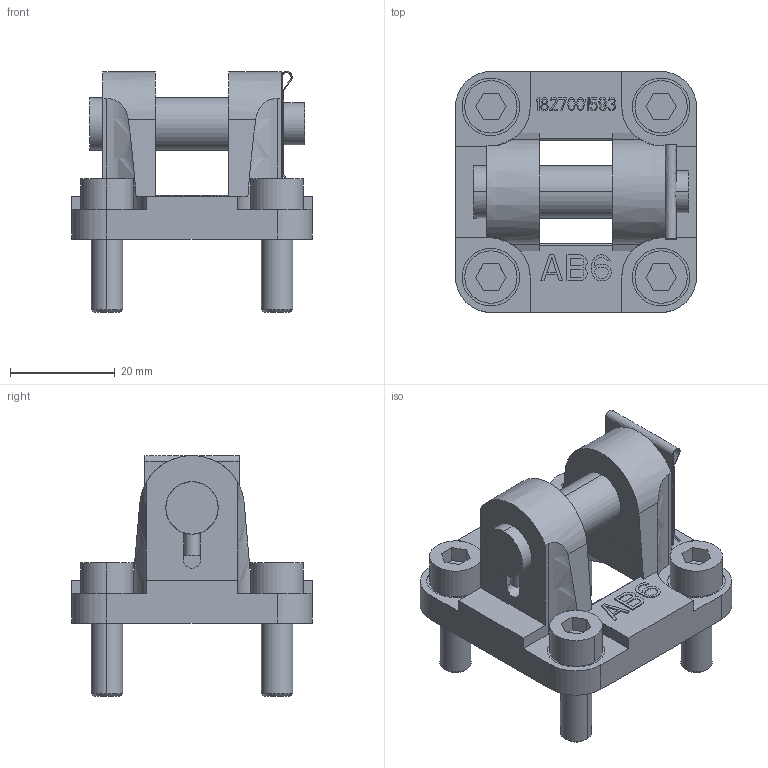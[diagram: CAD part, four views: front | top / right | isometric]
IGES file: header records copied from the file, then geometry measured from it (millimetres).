
Start section:  PTC IGES file: 1827001593\1827001593.iges
Global section: file name: 1827001593\1827001593.iges; native system: Creo Parametric by PTC Inc.; preprocessor: 2020044; author: THD3HC; organization: Unknown; date: 20231107.150156; units: millimetre
Bounding box: 46 x 46 x 46 mm (x, y, z)
Surface area: 11803.3 mm2 (no closed solid volume)
Topology: 0 solids, 0 shells, 656 faces, 3640 edges, 3640 vertices
Faces by surface type: bspline 593, revolution 63
